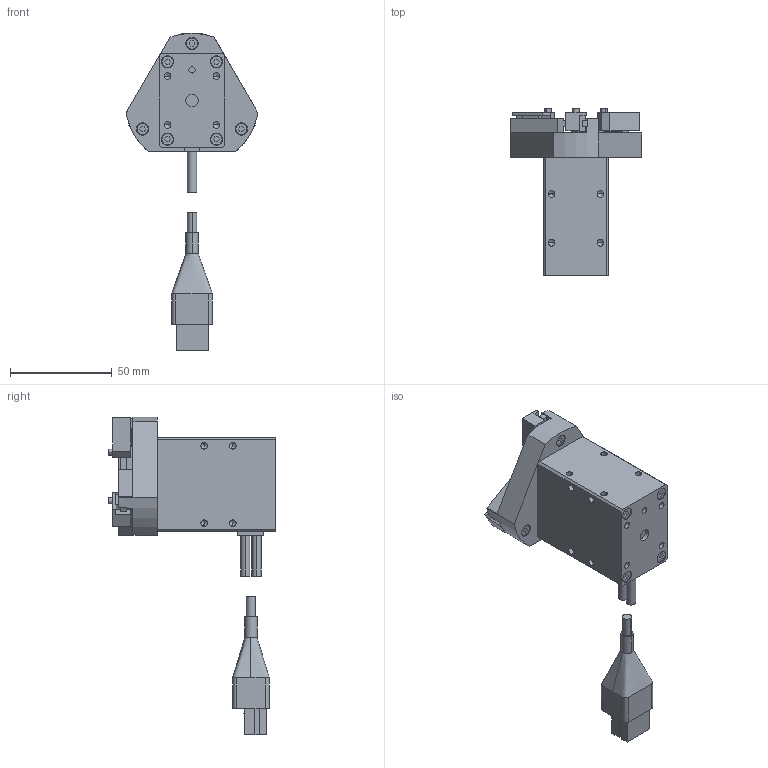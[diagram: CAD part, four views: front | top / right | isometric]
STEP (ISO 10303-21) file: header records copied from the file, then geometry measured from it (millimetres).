
FILE_DESCRIPTION (( 'STEP AP214' ), '1' );
FILE_NAME ('ESG1-ST-2820.STEP', '2009-02-12T03:48:20', ( '風音庵' ), ( '' ), 'SwSTEP 2.0', 'SolidWorks 2007', '' );
FILE_SCHEMA (( 'AUTOMOTIVE_DESIGN' ));
Length unit declared in the file: millimetre
Products named in the file (6): ESG1-ST-2820 BODY_蹬怮椔; CNNECTOR丂BB丂ASSY_棉太倌; ESG1-ST-2820 FINGER_蹬怮椔; CONNECTOR COVER　BB_ﾃﾞﾌｫﾙﾄ; CONNECTOR　DK-2100D-12R_ﾃﾞﾌｫﾙﾄ; ESG1-ST-2820
Assembly tree (7 placements, depth 3):
  ESG1-ST-2820
    ESG1-ST-2820 BODY_蹬怮椔
    ESG1-ST-2820 FINGER_蹬怮椔  x3
    CNNECTOR丂BB丂ASSY_棉太倌
      CONNECTOR COVER　BB_ﾃﾞﾌｫﾙﾄ
      CONNECTOR　DK-2100D-12R_ﾃﾞﾌｫﾙﾄ
Bounding box: 64.84 x 82 x 155.89 mm (x, y, z)
Volume: 132473.2 mm3; surface area: 31972.9 mm2
Topology: 6 solids, 6 shells, 462 faces, 1145 edges, 721 vertices
Faces by surface type: plane 299, cylinder 109, cone 52, bspline 2
Entity records: 15454 total; most frequent: CARTESIAN_POINT 2415, DIRECTION 1963, ORIENTED_EDGE 1898, EDGE_CURVE 949, LINE 741, VECTOR 741, VERTEX_POINT 621, AXIS2_PLACEMENT_3D 611
